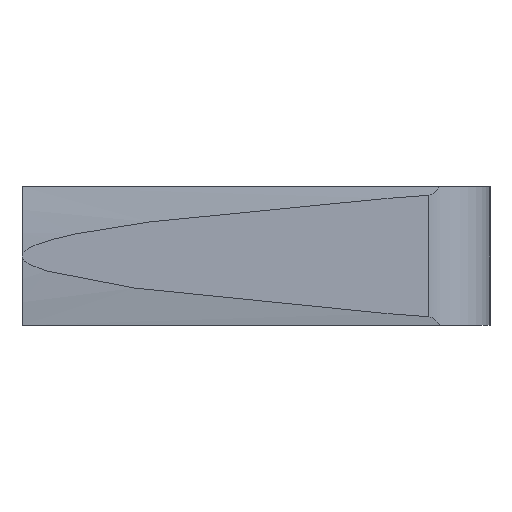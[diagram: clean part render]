
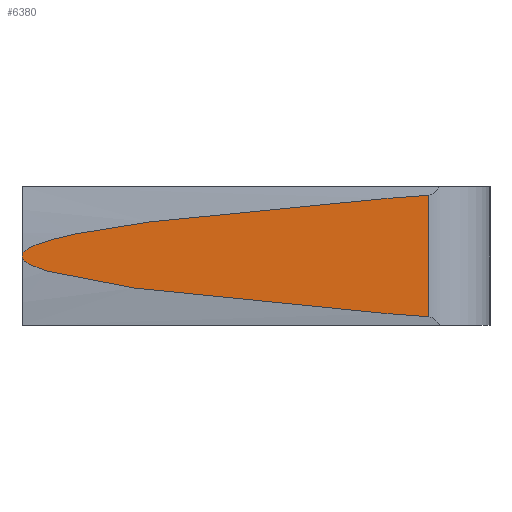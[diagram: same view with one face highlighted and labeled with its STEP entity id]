
A CAD part, left-side view. The second image highlights one B-rep face of the part: STEP entity #6380.
In plain terms, the highlighted planar face has unit normal (-1, -0.009, 0).
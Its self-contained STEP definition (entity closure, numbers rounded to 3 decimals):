
#4266 = EDGE_CURVE( '', #9816, #10638, #12635, .T. );
#4850 = EDGE_CURVE( '', #10054, #11082, #13269, .T. );
#6380 = ADVANCED_FACE( '', ( #14940 ), #14941, .F. );
#6512 = VERTEX_POINT( '', #15083 );
#6908 = EDGE_CURVE( '', #6512, #11082, #15513, .T. );
#9816 = VERTEX_POINT( '', #18658 );
#10054 = VERTEX_POINT( '', #18908 );
#10638 = VERTEX_POINT( '', #19548 );
#10978 = EDGE_CURVE( '', #9816, #6512, #19919, .T. );
#11082 = VERTEX_POINT( '', #20035 );
#11106 = EDGE_CURVE( '', #10054, #10638, #20059, .T. );
#12635 = ( B_SPLINE_CURVE( 2, ( #21752, #21753, #21754 ), .UNSPECIFIED., .F., .F. )B_SPLINE_CURVE_WITH_KNOTS( ( 3, 3 ), ( 52.222, 53.646 ), .UNSPECIFIED. )RATIONAL_B_SPLINE_CURVE( ( 1., 1., 1. ) )BOUNDED_CURVE(  )REPRESENTATION_ITEM( '' )GEOMETRIC_REPRESENTATION_ITEM(  )CURVE(  ) );
#13269 = ( B_SPLINE_CURVE( 2, ( #22744, #22745, #22746 ), .UNSPECIFIED., .F., .F. )B_SPLINE_CURVE_WITH_KNOTS( ( 3, 3 ), ( 0., 1.423 ), .UNSPECIFIED. )RATIONAL_B_SPLINE_CURVE( ( 1., 1., 1. ) )BOUNDED_CURVE(  )REPRESENTATION_ITEM( '' )GEOMETRIC_REPRESENTATION_ITEM(  )CURVE(  ) );
#14940 = FACE_OUTER_BOUND( '', #25244, .T. );
#14941 = PLANE( '', #25245 );
#15083 = CARTESIAN_POINT( '', ( -20., 0., 0. ) );
#15513 = ( B_SPLINE_CURVE( 2, ( #26110, #26111, #26112, #26113, #26114 ), .UNSPECIFIED., .F., .F. )B_SPLINE_CURVE_WITH_KNOTS( ( 3, 1, 1, 3 ), ( 24.819, 39.572, 44.221, 49.267 ), .UNSPECIFIED. )RATIONAL_B_SPLINE_CURVE( ( 1., 0.999, 0.999, 1., 1. ) )BOUNDED_CURVE(  )REPRESENTATION_ITEM( '' )GEOMETRIC_REPRESENTATION_ITEM(  )CURVE(  ) );
#18658 = CARTESIAN_POINT( '', ( -19.793, -23.708, -3.74 ) );
#18908 = CARTESIAN_POINT( '', ( -19.769, -26.435, 3.948 ) );
#19548 = CARTESIAN_POINT( '', ( -19.769, -26.435, -3.948 ) );
#19919 = ( B_SPLINE_CURVE( 2, ( #32705, #32706, #32707, #32708, #32709 ), .UNSPECIFIED., .F., .F. )B_SPLINE_CURVE_WITH_KNOTS( ( 3, 1, 1, 3 ), ( 0.371, 5.403, 10.047, 24.819 ), .UNSPECIFIED. )RATIONAL_B_SPLINE_CURVE( ( 1., 1., 0.999, 0.999, 1. ) )BOUNDED_CURVE(  )REPRESENTATION_ITEM( '' )GEOMETRIC_REPRESENTATION_ITEM(  )CURVE(  ) );
#20035 = CARTESIAN_POINT( '', ( -19.793, -23.708, 3.74 ) );
#20059 = LINE( '', #32921, #32922 );
#21752 = CARTESIAN_POINT( '', ( -19.793, -23.708, -3.74 ) );
#21753 = CARTESIAN_POINT( '', ( -19.782, -25.034, -3.844 ) );
#21754 = CARTESIAN_POINT( '', ( -19.769, -26.435, -3.948 ) );
#22744 = CARTESIAN_POINT( '', ( -19.769, -26.435, 3.948 ) );
#22745 = CARTESIAN_POINT( '', ( -19.782, -25.034, 3.844 ) );
#22746 = CARTESIAN_POINT( '', ( -19.793, -23.708, 3.74 ) );
#25244 = EDGE_LOOP( '', ( #38207, #38208, #38209, #38210, #38211 ) );
#25245 = AXIS2_PLACEMENT_3D( '', #38212, #38213, #38214 );
#26110 = CARTESIAN_POINT( '', ( -20., 0., 0. ) );
#26111 = CARTESIAN_POINT( '', ( -20., 0., 1.131 ) );
#26112 = CARTESIAN_POINT( '', ( -19.901, -11.361, 2.615 ) );
#26113 = CARTESIAN_POINT( '', ( -19.836, -18.821, 3.355 ) );
#26114 = CARTESIAN_POINT( '', ( -19.793, -23.708, 3.74 ) );
#32705 = CARTESIAN_POINT( '', ( -19.793, -23.708, -3.74 ) );
#32706 = CARTESIAN_POINT( '', ( -19.836, -18.834, -3.356 ) );
#32707 = CARTESIAN_POINT( '', ( -19.901, -11.384, -2.618 ) );
#32708 = CARTESIAN_POINT( '', ( -20., 0., -1.133 ) );
#32709 = CARTESIAN_POINT( '', ( -20., 0., 0. ) );
#32921 = CARTESIAN_POINT( '', ( -19.769, -26.435, 32. ) );
#32922 = VECTOR( '', #44313, 1. );
#38207 = ORIENTED_EDGE( '', *, *, #4266, .T. );
#38208 = ORIENTED_EDGE( '', *, *, #11106, .F. );
#38209 = ORIENTED_EDGE( '', *, *, #4850, .T. );
#38210 = ORIENTED_EDGE( '', *, *, #6908, .F. );
#38211 = ORIENTED_EDGE( '', *, *, #10978, .F. );
#38212 = CARTESIAN_POINT( '', ( -19.769, -26.435, 32. ) );
#38213 = DIRECTION( '', ( 1., 0.009, 0. ) );
#38214 = DIRECTION( '', ( 0.009, -1., 0. ) );
#44313 = DIRECTION( '', ( 0., 0., -1. ) );
